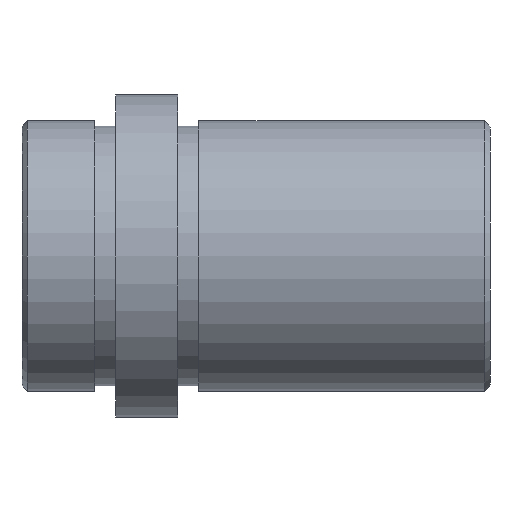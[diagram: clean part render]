
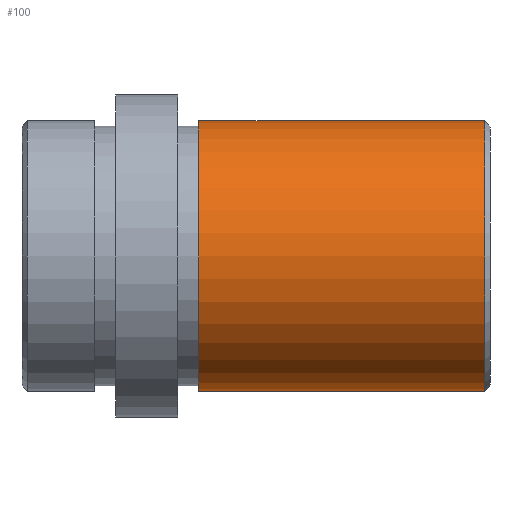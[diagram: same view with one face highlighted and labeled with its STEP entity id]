
A CAD part, front view. The second image highlights one B-rep face of the part: STEP entity #100.
In plain terms, the highlighted face is a revolution surface.
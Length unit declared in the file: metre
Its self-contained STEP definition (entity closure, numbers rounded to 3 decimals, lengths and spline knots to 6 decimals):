
#100 = ADVANCED_FACE( '', ( #157 ), #158, .F. );
#157 = FACE_OUTER_BOUND( '', #250, .T. );
#158 = SURFACE_OF_REVOLUTION( '', #251, #252 );
#250 = EDGE_LOOP( '', ( #419, #420, #421, #422 ) );
#251 = B_SPLINE_CURVE_WITH_KNOTS( '', 1, ( #423, #424 ), .UNSPECIFIED., .F., .F., ( 2, 2 ), ( -10000., 10000. ), .UNSPECIFIED. );
#252 = AXIS1_PLACEMENT( '', #425, #426 );
#419 = ORIENTED_EDGE( '', *, *, #492, .T. );
#420 = ORIENTED_EDGE( '', *, *, #490, .T. );
#421 = ORIENTED_EDGE( '', *, *, #445, .F. );
#422 = ORIENTED_EDGE( '', *, *, #489, .T. );
#423 = CARTESIAN_POINT( '', ( 10000.0445, 0., 0.013 ) );
#424 = CARTESIAN_POINT( '', ( -9999.9555, 0., 0.013 ) );
#425 = CARTESIAN_POINT( '', ( 0., 0., 0. ) );
#426 = DIRECTION( '', ( 1., 0., 0. ) );
#445 = EDGE_CURVE( '', #499, #500, #501, .T. );
#489 = EDGE_CURVE( '', #499, #571, #572, .F. );
#490 = EDGE_CURVE( '', #573, #500, #574, .T. );
#492 = EDGE_CURVE( '', #571, #573, #576, .T. );
#499 = VERTEX_POINT( '', #583 );
#500 = VERTEX_POINT( '', #584 );
#501 = CIRCLE( '', #585, 0.013 );
#571 = VERTEX_POINT( '', #671 );
#572 = LINE( '', #672, #673 );
#573 = VERTEX_POINT( '', #674 );
#574 = LINE( '', #675, #676 );
#576 = CIRCLE( '', #678, 0.013 );
#583 = CARTESIAN_POINT( '', ( 0.017, 0., -0.013 ) );
#584 = CARTESIAN_POINT( '', ( 0.017, 0., 0.013 ) );
#585 = AXIS2_PLACEMENT_3D( '', #689, #690, #691 );
#671 = CARTESIAN_POINT( '', ( 0.0445, 0., -0.013 ) );
#672 = CARTESIAN_POINT( '', ( 0.0445, 0., -0.013 ) );
#673 = VECTOR( '', #789, 1. );
#674 = CARTESIAN_POINT( '', ( 0.0445, 0., 0.013 ) );
#675 = CARTESIAN_POINT( '', ( 0.0445, 0., 0.013 ) );
#676 = VECTOR( '', #790, 1. );
#678 = AXIS2_PLACEMENT_3D( '', #794, #795, #796 );
#689 = CARTESIAN_POINT( '', ( 0.017, 0., 0. ) );
#690 = DIRECTION( '', ( -1., 0., 0. ) );
#691 = DIRECTION( '', ( 0., 0., 1. ) );
#789 = DIRECTION( '', ( -1., 0., 0. ) );
#790 = DIRECTION( '', ( -1., 0., 0. ) );
#794 = CARTESIAN_POINT( '', ( 0.0445, 0., 0. ) );
#795 = DIRECTION( '', ( -1., 0., 0. ) );
#796 = DIRECTION( '', ( 0., 0., 1. ) );
